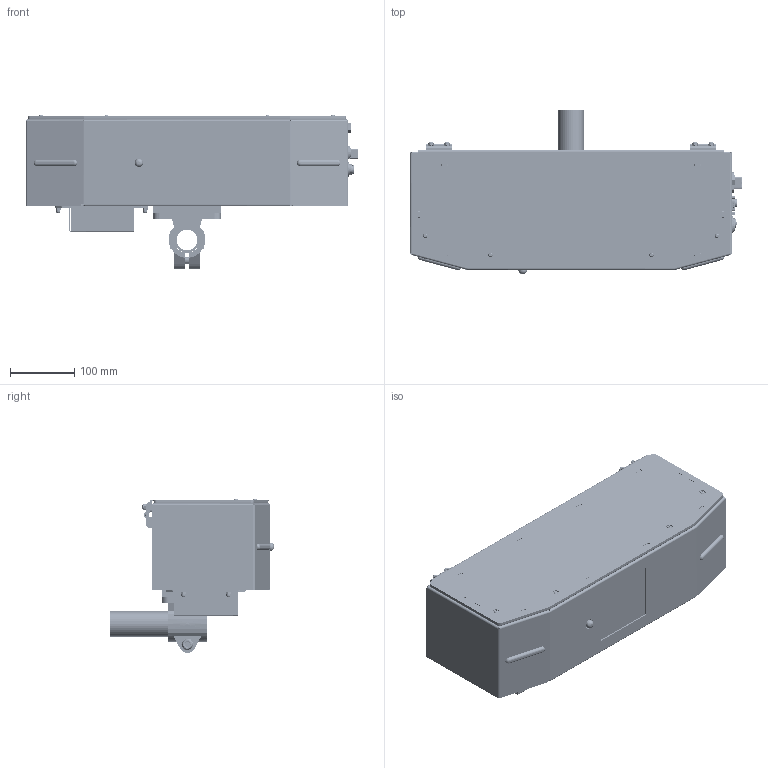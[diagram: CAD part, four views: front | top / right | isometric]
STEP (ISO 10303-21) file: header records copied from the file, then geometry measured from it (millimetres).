
FILE_DESCRIPTION(/* description */ ('LPHFD2'),/* implementation_level */ '2;1');
FILE_NAME(/* name */ 'LPHFD2_ohne Inhalt_20170327',/* time_stamp */ '2017-03-27T12:20:47+02:00',/* author */ ('SH'),/* organization */ ('Z-LASER'),/* preprocessor_version */ 'ST-DEVELOPER v16.7',/* originating_system */ 'DEX',/* authorisation */ $);
FILE_SCHEMA (('AUTOMOTIVE_DESIGN {1 0 10303 214 3 1 1}'));
Products named in the file (69): ZLP_- aktiv-Kühlung; Z3D_Data_Interface_Board_Rev_A(BV1_100951501_Z3D_Data_Interface_Board
_Rev_A); Board_0; R1_0; 1038369808; Extruded-2_0; X2_0; 1038369424; Extruded-1_0; X3_0; 1038372624; Extruded_0; 18K2A245_9pos.; 100956602_LP2013_Flansch_Anschlüsse_Seite_c; 09452451560 Harting PushPull RJ45; 100219470ugm000_a; 3600200_Schluesselschalter; 3500030_Fuseholder_FPG1; 3; R13_Round_Rocker_Switch; 100900701_Glasandrückrahmen_LPZ3D-Control_Vers.B; Glasscheibe Scanner_100x110; Z-RGB_Multifunktion_Platine_Rev_A_oa_0; TRM_SURF_137; Flanschstecker_M16_IP67_09-0111-00-04; Hutmutter-DIN 1587_M4; PEM_FH-M4-8; Fan_80x80x25_Einbaumuster; Fan-80x80x25-Promoco_Fan-KD1208PTS3-Promoco; Fan-House-80x80x25-Promoco_Fan-House-KD1208PTS3-Promoco; 100925250_Z3D-Control_Flachdichtung_Kühlung_Blech; 101011300_BG_ZLP_Gehäuse_kompl_Kabeldur_geschlossen; 1504100510_0_Kabeldur_geschlossen; FH-M4-12_0; FH-M4-15_0; FH-M4-8_0; BSO-M4-10_0; BNM M5 HUC FEFG 3,5_0; 1504100520_0; 1504100521_0 ...
Assembly tree (146 placements, depth 5):
  ZLP_- aktiv-Kühlung
    Z3D_Data_Interface_Board_Rev_A(BV1_100951501_Z3D_Data_Interface_Board
_Rev_A)
      Board_0
      R1_0
        1038369808
          Extruded-2_0
      X2_0
        1038369424
          Extruded-1_0
      X3_0
        1038372624
          Extruded_0
      18K2A245_9pos.
    100956602_LP2013_Flansch_Anschlüsse_Seite_c
    09452451560 Harting PushPull RJ45
      100219470ugm000_a
    3600200_Schluesselschalter
    3500030_Fuseholder_FPG1
      3
    R13_Round_Rocker_Switch
    100900701_Glasandrückrahmen_LPZ3D-Control_Vers.B
    Glasscheibe Scanner_100x110
    Z-RGB_Multifunktion_Platine_Rev_A_oa_0
      TRM_SURF_137
    Flanschstecker_M16_IP67_09-0111-00-04
    Hutmutter-DIN 1587_M4  x4
    PEM_FH-M4-8  x4
    Fan_80x80x25_Einbaumuster
      Fan-80x80x25-Promoco_Fan-KD1208PTS3-Promoco
      Fan-House-80x80x25-Promoco_Fan-House-KD1208PTS3-Promoco
    100925250_Z3D-Control_Flachdichtung_Kühlung_Blech
    101011300_BG_ZLP_Gehäuse_kompl_Kabeldur_geschlossen
      1504100510_0_Kabeldur_geschlossen
        1504100510_0_Kabeldur_geschlossen
        FH-M4-12_0  x15
        FH-M4-15_0  x4
        FH-M4-8_0  x4
        BSO-M4-10_0  x10
        BNM M5 HUC FEFG 3,5_0  x4
      1504100520_0
        1504100520_0
        1504100521_0
        1504100522_0
        BSO-M3-10_0  x8
        FH-M5-15_0  x4
        Schaumdichtung FERMA-P9021-VP1_0
        FH-M4-12_0  x4
      1504100511_0  x2
      1504100540_0  x4
      1504100560_0
      1056-U6_0  x2
        _4-250-218-9003-P1_0
        _4-250-218-9003-P2_0
        _4-250-PIN_0
      Sechskantmutter B1364 M4 VZ_0  x10
      Senkschraube M5x20 DIN 7991 VZ_0  x4
      U-Scheibe 5,3_0  x4
      mutter selbstsichernd M5_0  x4
      LinsenFlanschschraube M4x8 DIN7380 Innensechskant_0  x4
    SZ0000001_Kardanische_Aufhängung zur Montage_LPHFD_oa_1
Bounding box: 515.54 x 254.38 x 238.46 mm (x, y, z)
Volume: 1478528.4 mm3; surface area: 1150446.1 mm2
Topology: 130 solids, 135 shells, 8833 faces, 24049 edges, 15880 vertices
Faces by surface type: plane 5212, cylinder 2205, cone 1026, torus 215, bspline 148, sphere 27
Full cylindrical faces by diameter (mm): 0.5 x20, 0.6 x9, 0.64 x9, 1.01 x9, 1.1 x12, 1.51 x9, 1.6 x14, 2.013 x4, 2.156 x4, 2.459 x2, 2.5 x8, 2.55 x2, 2.7 x2, 3.1 x2, 3.242 x14, 3.3 x14, 3.924 x4, 3.981 x8, 4 x49, 4.1 x39, 4.134 x4, 4.19 x16, 4.2 x4, 4.3 x22, 4.5 x6, 4.7 x8, 5 x18, 5.1 x4, 5.3 x14, 5.4 x4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
Entity records: 166904 total; most frequent: CARTESIAN_POINT 34288, DIRECTION 24955, ORIENTED_EDGE 24352, EDGE_CURVE 12176, AXIS2_PLACEMENT_3D 8420, LINE 8115, VECTOR 8115, VERTEX_POINT 8032
